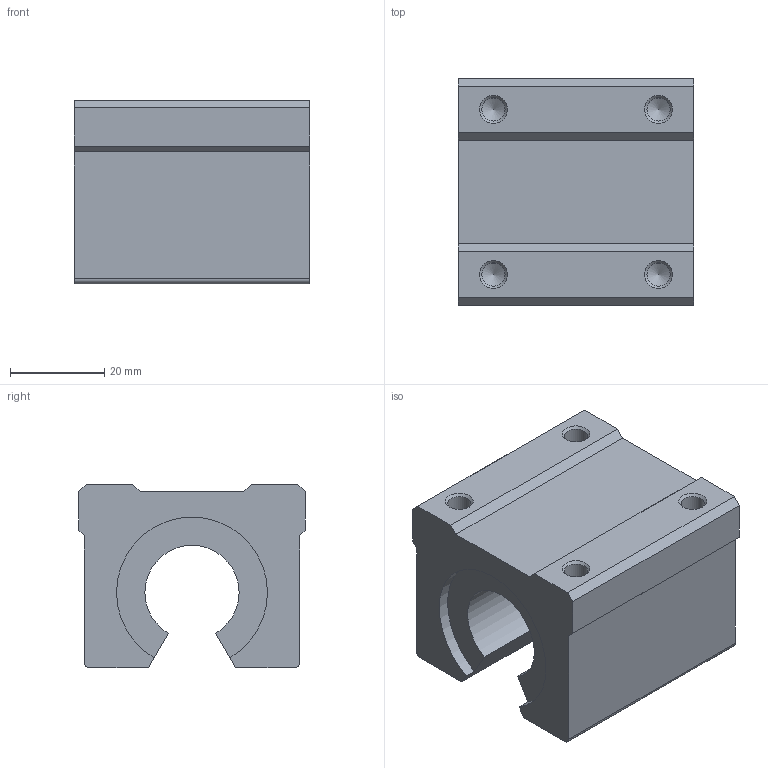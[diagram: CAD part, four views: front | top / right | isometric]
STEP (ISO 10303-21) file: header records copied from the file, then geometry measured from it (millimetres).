
FILE_DESCRIPTION( ( 'Unknown' ), '1' );
FILE_NAME( 'D:/累诀/己绕皋墨飘肺葱胶/11-04-06_档搁累己/01_府聪绢何教/SSBR/SBR20SA.stp', 'Unknown', ( 'Unknown' ), ( 'Unknown' ), 'PSStep 11.0', 'Unknown', ' ' );
FILE_SCHEMA( ( 'AUTOMOTIVE_DESIGN { 1 0 10303 214 1 1 1 1 }' ) );
Length unit declared in the file: millimetre
Products named in the file (1): SBR__
Bounding box: 50 x 48 x 39 mm (x, y, z)
Volume: 64475.6 mm3; surface area: 14825.4 mm2
Topology: 1 solids, 1 shells, 42 faces, 112 edges, 72 vertices
Faces by surface type: plane 21, cylinder 13, cone 8
Full cylindrical faces by diameter (mm): 4.917 x8
Entity records: 1514 total; most frequent: DIRECTION 200, CARTESIAN_POINT 199, ORIENTED_EDGE 176, EDGE_CURVE 88, AXIS2_PLACEMENT_3D 69, VERTEX_POINT 68, LINE 62, VECTOR 62
